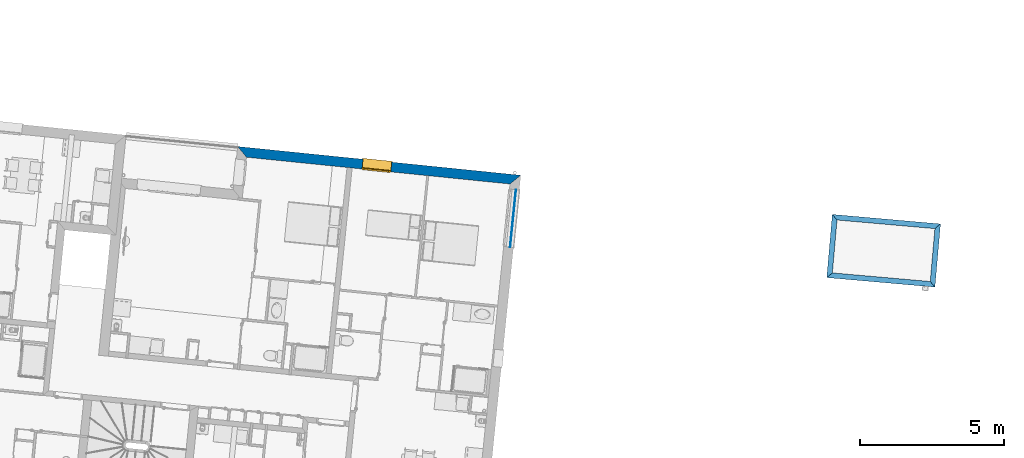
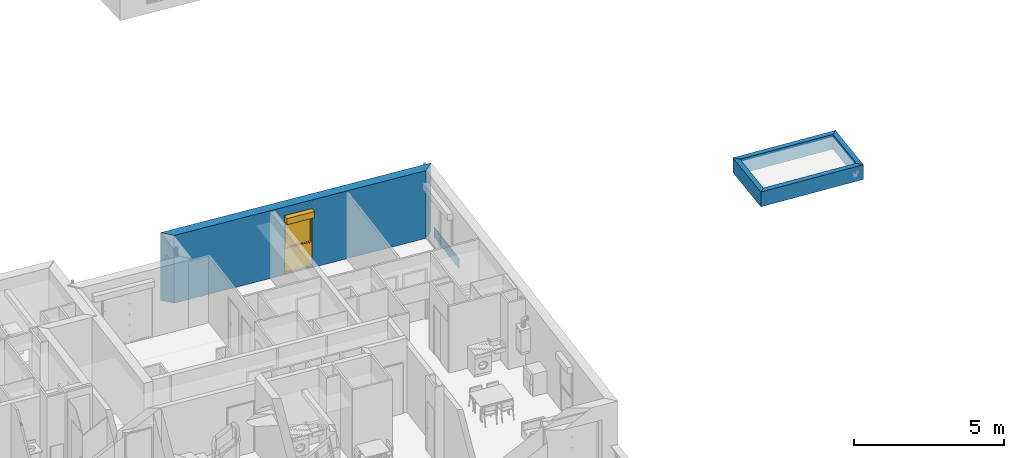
# One storey, part 70 of 164: 6 walls, 1 window, 1 opening.
"""IFC2X3 building model written with IfcOpenShell, lengths in millimetres."""

from ifc_helpers import new_model, entity, si_unit, converted_unit, derived_unit, money_unit, direction, frame, origin_with_axes, place, context, subcontext, project, spatial, polyline, outline, extrude, open_shell, faceted_brep, surface_model, source, transform, mapped, material, layer, layer_set, layer_usage, type_object, element, fill, save


model = new_model("IFC2X3")

# Units and contexts
model_context = context("Model", 3, precision=0.01, world=origin_with_axes(), true_north=direction((0.0, 1.0)))
body_context = subcontext(model_context, "Body", "Model", "MODEL_VIEW")
ifc_project = project(units=[si_unit("LENGTHUNIT", "METRE", prefix="MILLI"), si_unit("AREAUNIT", "SQUARE_METRE"), si_unit("VOLUMEUNIT", "CUBIC_METRE"), converted_unit("PLANEANGLEUNIT", "DEGREE", entity("IfcPlaneAngleMeasure", 0.0174532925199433), si_unit("PLANEANGLEUNIT", "RADIAN"), dimensions=[0, 0, 0, 0, 0, 0, 0]), money_unit("USD"), converted_unit("TIMEUNIT", "Year", entity("IfcTimeMeasure", 31557600.0), si_unit("TIMEUNIT", "SECOND"), dimensions=[0, 0, 1, 0, 0, 0, 0]), si_unit("MASSUNIT", "GRAM", prefix="KILO"), si_unit("THERMODYNAMICTEMPERATUREUNIT", "DEGREE_CELSIUS"), si_unit("LUMINOUSINTENSITYUNIT", "LUMEN"), si_unit("ENERGYUNIT", "JOULE", prefix="MEGA"), derived_unit("THERMALCONDUCTANCEUNIT", [(si_unit("POWERUNIT", "WATT"), 1), (si_unit("LENGTHUNIT", "METRE"), -1), (si_unit("THERMODYNAMICTEMPERATUREUNIT", "KELVIN"), -1)]), derived_unit("SPECIFICHEATCAPACITYUNIT", [(si_unit("ENERGYUNIT", "JOULE"), 1), (si_unit("MASSUNIT", "GRAM", prefix="KILO"), -1), (si_unit("THERMODYNAMICTEMPERATUREUNIT", "KELVIN"), -1)]), derived_unit("MASSDENSITYUNIT", [(si_unit("MASSUNIT", "GRAM", prefix="KILO"), 1), (si_unit("VOLUMEUNIT", "CUBIC_METRE"), -1)])], contexts=[model_context])

# Site, building, storey
site_placement = place(None, origin_with_axes())
site = spatial("IfcSite", under=ifc_project, at=site_placement, Name="Site", CompositionType="ELEMENT")
building_placement = place(site_placement, origin_with_axes())
building = spatial("IfcBuilding", under=site, at=building_placement, Name="Bâtiment", CompositionType="ELEMENT")
storey_placement = place(building_placement, frame((0.0, 0.0, 5750.0), z_axis=(0.0, 0.0, 1.0), x_axis=(1.0, 0.0, 0.0)))
storey = spatial("IfcBuildingStorey", under=building, at=storey_placement, Name="Etage1", CompositionType="ELEMENT", Elevation=5750.0)

# Walls
ifc_material_1 = material(Name="Parpaing 314940890")
ifc_layer_1 = layer(ifc_material_1, 180.0, ventilated="UNKNOWN")
ifc_layer_set_1 = layer_set([ifc_layer_1], Name="Beton  18 0018356637")
ifc_layer_usage_1 = layer_usage(ifc_layer_set_1, "AXIS2", "NEGATIVE", 0.0)
wall_type_1 = type_object("IfcWallType", Name="Beton  18 0018356637 180", PredefinedType="NOTDEFINED")
wall_1_placement = place(storey_placement, frame((2250975.347141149, -607592.5401625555, -600.0000000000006), z_axis=(0.0, 0.0, 1.0), x_axis=(0.9961532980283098, -0.08762766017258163, 0.0)))
element("IfcWallStandardCase", 1, at=wall_1_placement, inside=storey, type_object=wall_type_1, material=ifc_layer_usage_1, Name="Mur-150", context=body_context, shape_type="SweptSolid", body=[
    extrude(outline(polyline([(180.00000000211, -179.9999999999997), (3582.228864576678, -179.9999999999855), (3762.228864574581, 0.0), (1.13686837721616e-10, 0.0), (180.00000000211, -179.9999999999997)])), origin_with_axes(), (0.0, 0.0, 1.0), 600.0000000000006),
])
ifc_layer_usage_2 = layer_usage(ifc_layer_set_1, "AXIS2", "NEGATIVE", 0.0)
wall_2_placement = place(storey_placement, frame((2254723.103832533, -607922.215474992, -600.0000000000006), z_axis=(0.0, 0.0, 1.0), x_axis=(-0.0876276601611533, -0.9961532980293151, 0.0)))
element("IfcWallStandardCase", 2, at=wall_2_placement, inside=storey, type_object=wall_type_1, material=ifc_layer_usage_2, Name="Mur-150", context=body_context, shape_type="SweptSolid", body=[
    extrude(outline(polyline([(179.999999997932, -180.0000000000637), (2017.153720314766, -179.99999999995), (2197.153720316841, -1.13686837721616e-10), (0.0, 0.0), (179.999999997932, -180.0000000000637)])), origin_with_axes(), (0.0, 0.0, 1.0), 600.0000000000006),
])
ifc_layer_usage_3 = layer_usage(ifc_layer_set_1, "AXIS2", "NEGATIVE", 0.0)
wall_3_placement = place(storey_placement, frame((2250782.815701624, -609781.2420873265, -600.0000000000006), z_axis=(0.0, 0.0, 1.0), x_axis=(0.08762766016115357, 0.9961532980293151, 0.0)))
element("IfcWallStandardCase", 3, at=wall_3_placement, inside=storey, type_object=wall_type_1, material=ifc_layer_usage_3, Name="Mur-150", context=body_context, shape_type="SweptSolid", body=[
    extrude(outline(polyline([(179.9999999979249, -180.0000000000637), (2017.153720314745, -179.99999999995), (2197.15372031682, 0.0), (0.0, 0.0), (179.9999999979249, -180.0000000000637)])), origin_with_axes(), (0.0, 0.0, 1.0), 600.0000000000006),
])
ifc_layer_usage_4 = layer_usage(ifc_layer_set_1, "AXIS2", "NEGATIVE", 0.0)
wall_4_placement = place(storey_placement, frame((2254530.572393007, -610110.917399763, -600.0000000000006), z_axis=(0.0, 0.0, 1.0), x_axis=(-0.9961532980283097, 0.0876276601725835, 0.0)))
element("IfcWallStandardCase", 4, at=wall_4_placement, inside=storey, type_object=wall_type_1, material=ifc_layer_usage_4, Name="Mur-150", context=body_context, shape_type="SweptSolid", body=[
    extrude(outline(polyline([(180.00000000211, -179.9999999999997), (3582.228864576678, -179.9999999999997), (3762.228864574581, 0.0), (1.13686837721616e-10, 0.0), (180.00000000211, -179.9999999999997)])), origin_with_axes(), (0.0, 0.0, 1.0), 600.0000000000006),
])
ifc_material_2 = material(Name="MANQUANT")
ifc_layer_2 = layer(ifc_material_2, 20.0, ventilated="UNKNOWN")
ifc_layer_set_2 = layer_set([ifc_layer_2], Name="MANQUANT 20")
ifc_layer_usage_5 = layer_usage(ifc_layer_set_2, "AXIS2", "POSITIVE", -20.0)
wall_type_2 = type_object("IfcWallType", Name="MANQUANT 20", PredefinedType="NOTDEFINED")
wall_5_placement = place(storey_placement, frame((2239804.651416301, -608724.0890658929, 99.99999999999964), z_axis=(0.0, 0.0, 1.0), x_axis=(0.1011032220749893, 0.9948759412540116, 0.0)))
element("IfcWallStandardCase", 5, at=wall_5_placement, inside=storey, type_object=wall_type_2, material=ifc_layer_usage_5, Name="Mur-150", context=body_context, shape_type="SweptSolid", body=[
    extrude(outline(polyline([(0.0, -20.0000000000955), (1999.999999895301, -20.00000000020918), (1999.999999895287, -1.13686837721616e-10), (0.0, 0.0), (0.0, -20.0000000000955)])), origin_with_axes(), (0.0, 0.0, 1.0), 400.0),
])

# Wall, opening, window
ifc_material_3 = material(Name="Parpaing 312445824")
ifc_layer_3 = layer(ifc_material_3, 180.0, ventilated="UNKNOWN")
ifc_material_4 = material(Name="Isolant styromousse 301821074")
ifc_layer_4 = layer(ifc_material_4, 160.0, ventilated="UNKNOWN")
ifc_layer_set_3 = layer_set([ifc_layer_3, ifc_layer_4], Name="isol int 18+16 0018356637")
ifc_layer_usage_6 = layer_usage(ifc_layer_set_3, "AXIS2", "POSITIVE", 0.0)
wall_type_3 = type_object("IfcWallType", Name="isol int 18+16 0018356637 340", PredefinedType="NOTDEFINED")
wall_6_placement = place(storey_placement, frame((2240182.946874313, -606236.1516955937, 0.0), z_axis=(0.0, 0.0, 1.0), x_axis=(-0.99487594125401, 0.1011032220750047, 0.0)))
wall_6 = element("IfcWallStandardCase", 6, at=wall_6_placement, inside=storey, type_object=wall_type_3, material=ifc_layer_usage_6, Name="Mur-142", context=body_context, shape_type="SweptSolid", body=[
    extrude(outline(polyline([(-1.13686837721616e-10, 0.0), (9857.91006069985, 0.0), (9517.910060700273, 340.0000000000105), (339.9999999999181, 339.9999999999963), (-1.13686837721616e-10, 0.0)])), origin_with_axes(), (0.0, 0.0, 1.0), 2750.0),
])
opening_placement = place(wall_6_placement, frame((4992.65878816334, 0.0, 49.99999999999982), z_axis=(0.0, 0.0, 1.0), x_axis=(1.0, 0.0, 0.0)))
opening = element("IfcOpeningElement", 7, at=opening_placement, cuts=wall_6, Name="Fen-133", context=body_context, shape_type="Brep", body=[
    faceted_brep([(500.0, 279.999999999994, 2100.0), (-500.0000000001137, 280.0000000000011, 2100.0), (-500.0, -992.5594925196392, 2100.0), (500.0, -992.5594925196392, 2100.0), (500.0, 279.999999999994, 2350.0), (-500.0000000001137, 280.0000000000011, 2350.0), (-500.0000000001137, 289.9999999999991, 2100.0), (-500.0000000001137, 289.9999999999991, 0.0), (-500.0, -992.5594925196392, 0.0), (500.0, -992.5594925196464, 0.0), (499.9999999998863, 289.999999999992, 2100.0), (500.0, 289.9999999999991, 0.0), (500.0, 530.0000000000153, 2100.0), (500.0, 530.0000000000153, 2350.0), (-500.0, 530.0000000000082, 2350.0), (-500.0, 530.0000000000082, 2100.0), (-500.0, 1332.559492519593, 2100.0), (-500.0, 1332.559492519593, 0.0), (500.0000000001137, 1332.559492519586, 0.0), (500.0000000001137, 1332.559492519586, 2100.0)], [[[0, 1, 2, 3]], [[1, 0, 4, 5]], [[1, 6, 7, 8, 2]], [[2, 8, 9, 3]], [[10, 0, 3, 9, 11]], [[0, 10, 12, 13, 4]], [[4, 13, 14, 5]], [[6, 1, 5, 14, 15]], [[6, 15, 16, 17, 7]], [[11, 9, 8, 7, 17, 18]], [[12, 10, 11, 18, 19]], [[12, 15, 14, 13]], [[15, 12, 19, 16]], [[19, 18, 17, 16]]]),
])
window_style = type_object("IfcWindowStyle", Name="Fenêtre 27", ConstructionType="NOTDEFINED", OperationType="DOUBLE_PANEL_HORIZONTAL", ParameterTakesPrecedence=False, Sizeable=False)
shared_shape = source(origin_with_axes(), body_context, "Body", "SurfaceModel", [
    surface_model("IfcShellBasedSurfaceModel", [(500.0, -51.00000000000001, 40.00000000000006), (500.0, -51.00000000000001, 50.00000000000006), (-500.0, -51.00000000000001, 50.0), (-500.0, -51.00000000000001, 40.0), (530.0, -369.9999999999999, 28.96551724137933), (530.0, -339.9999999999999, 30.00324289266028), (500.0, -339.9999999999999, 30.00324289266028), (-500.0, -339.9999999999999, 30.00324289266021), (-530.0, -339.9999999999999, 30.00324289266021), (-530.0, -369.9999999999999, 28.96551724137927), (530.0, -369.9999999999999, 8.96551724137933), (-530.0, -369.9999999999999, 8.965517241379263), (530.0, -359.9999999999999, 18.96551724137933), (-530.0, -359.9999999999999, 18.96551724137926)], [open_shell([[[0, 1, 2, 3]], [[4, 5, 6, 0, 3, 7, 8, 9]], [[10, 4, 9, 11]], [[12, 10, 11, 13]]])]),
    faceted_brep([(-500.0, -59.99999999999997, 2350.0), (-497.0, -59.99999999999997, 2350.0), (-497.0, 190.0, 2350.0), (-500.0, 190.0, 2350.0), (-500.0, -59.99999999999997, 2100.0), (-497.0, -59.99999999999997, 2100.0), (-497.0, 190.0, 2100.0), (-500.0, 190.0, 2100.0)], [[[0, 1, 2, 3]], [[4, 5, 1, 0]], [[1, 5, 6, 2]], [[3, 2, 6, 7]], [[0, 3, 7, 4]], [[7, 6, 5, 4]]]),
    faceted_brep([(497.0, -59.99999999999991, 2350.0), (500.0, -59.99999999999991, 2350.0), (500.0, 190.0000000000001, 2350.0), (497.0, 190.0000000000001, 2350.0), (497.0, -59.99999999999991, 2100.0), (500.0, -59.99999999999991, 2100.0), (500.0, 190.0000000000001, 2100.0), (497.0, 190.0000000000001, 2100.0)], [[[0, 1, 2, 3]], [[4, 5, 1, 0]], [[1, 5, 6, 2]], [[3, 2, 6, 7]], [[0, 3, 7, 4]], [[7, 6, 5, 4]]]),
    faceted_brep([(-497.0, -60.0, 2100.0), (497.0, -59.99999999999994, 2100.0), (497.0, -59.99999999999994, 2350.0), (-497.0, -60.0, 2350.0), (-497.0, -56.99999999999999, 2100.0), (497.0, -56.99999999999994, 2100.0), (497.0, -56.99999999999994, 2347.0), (497.0, 187.0000000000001, 2347.0), (497.0, 187.0000000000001, 2103.0), (497.0, -37.99999999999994, 2103.0), (497.0, -37.99999999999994, 2100.0), (497.0, 190.0000000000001, 2100.0), (497.0, 190.0000000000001, 2350.0), (-497.0, 190.0, 2350.0), (-497.0, 190.0, 2100.0), (-497.0, -37.99999999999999, 2100.0), (-497.0, -37.99999999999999, 2103.0), (-497.0, 187.0, 2103.0), (-497.0, 187.0, 2347.0), (-497.0, -56.99999999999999, 2347.0)], [[[0, 1, 2, 3]], [[4, 5, 1, 0]], [[1, 5, 6, 7, 8, 9, 10, 11, 12, 2]], [[3, 2, 12, 13]], [[0, 3, 13, 14, 15, 16, 17, 18, 19, 4]], [[19, 6, 5, 4]], [[18, 7, 6, 19]], [[17, 8, 7, 18]], [[16, 9, 8, 17]], [[15, 10, 9, 16]], [[14, 11, 10, 15]], [[13, 12, 11, 14]]]),
    faceted_brep([(-494.0, -40.37442957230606, 2206.419644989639), (-494.0, -41.99999999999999, 2225.0), (-494.0, -40.37442957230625, 2243.580355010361), (-494.0, -35.54711042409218, 2261.596155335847), (-494.0, -27.66471820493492, 2278.5), (-494.0, -16.96675541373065, 2293.77827423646), (-494.0, -3.778274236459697, 2306.966755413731), (-494.0, 11.5, 2317.664718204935), (-494.0, 28.40384466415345, 2325.547110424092), (-494.0, 46.41964498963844, 2330.374429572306), (-494.0, 64.99999999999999, 2332.0), (-494.0, 83.58035501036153, 2330.374429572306), (-494.0, 101.5961553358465, 2325.547110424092), (-494.0, 118.5, 2317.664718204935), (-494.0, 133.7782742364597, 2306.966755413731), (-494.0, 146.9667554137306, 2293.77827423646), (-494.0, 157.6647182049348, 2278.5), (-494.0, 165.5471104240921, 2261.596155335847), (-494.0, 170.3744295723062, 2243.580355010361), (-494.0, 171.9999999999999, 2225.0), (-494.0, 170.3744295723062, 2206.419644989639), (-494.0, 165.5471104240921, 2188.403844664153), (-494.0, 157.6647182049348, 2171.5), (-494.0, 146.9667554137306, 2156.22172576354), (-494.0, 133.7782742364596, 2143.03324458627), (-494.0, 118.4999999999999, 2132.335281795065), (-494.0, 101.5961553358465, 2124.452889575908), (-494.0, 83.58035501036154, 2119.625570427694), (-494.0, 65.00000000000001, 2118.0), (-494.0, 46.4196449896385, 2119.625570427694), (-494.0, 28.40384466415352, 2124.452889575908), (-494.0, 11.50000000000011, 2132.335281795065), (-494.0, -3.778274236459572, 2143.03324458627), (-494.0, -16.9667554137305, 2156.22172576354), (-494.0, -27.66471820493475, 2171.5), (-494.0, -35.54711042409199, 2188.403844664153), (494.0, -40.374429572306, 2206.419644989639), (494.0, -41.99999999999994, 2225.0), (494.0, -40.37442957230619, 2243.580355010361), (494.0, -35.54711042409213, 2261.596155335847), (494.0, -27.66471820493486, 2278.5), (494.0, -16.96675541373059, 2293.77827423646), (494.0, -3.778274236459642, 2306.966755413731), (494.0, 11.50000000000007, 2317.664718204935), (494.0, 28.40384466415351, 2325.547110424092), (494.0, 46.41964498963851, 2330.374429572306), (494.0, 65.00000000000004, 2332.0), (494.0, 83.58035501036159, 2330.374429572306), (494.0, 101.5961553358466, 2325.547110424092), (494.0, 118.5, 2317.664718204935), (494.0, 133.7782742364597, 2306.966755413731), (494.0, 146.9667554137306, 2293.77827423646), (494.0, 157.6647182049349, 2278.5), (494.0, 165.5471104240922, 2261.596155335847), (494.0, 170.3744295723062, 2243.580355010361), (494.0, 172.0, 2225.0), (494.0, 170.3744295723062, 2206.419644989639), (494.0, 165.5471104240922, 2188.403844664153), (494.0, 157.6647182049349, 2171.5), (494.0, 146.9667554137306, 2156.22172576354), (494.0, 133.7782742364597, 2143.03324458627), (494.0, 118.5, 2132.335281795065), (494.0, 101.5961553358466, 2124.452889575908), (494.0, 83.5803550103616, 2119.625570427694), (494.0, 65.00000000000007, 2118.0), (494.0, 46.41964498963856, 2119.625570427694), (494.0, 28.40384466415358, 2124.452889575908), (494.0, 11.50000000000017, 2132.335281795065), (494.0, -3.778274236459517, 2143.03324458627), (494.0, -16.96675541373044, 2156.22172576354), (494.0, -27.6647182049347, 2171.5), (494.0, -35.54711042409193, 2188.403844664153)], [[[0, 1, 2, 3, 4, 5, 6, 7, 8, 9, 10, 11, 12, 13, 14, 15, 16, 17, 18, 19, 20, 21, 22, 23, 24, 25, 26, 27, 28, 29, 30, 31, 32, 33, 34, 35]], [[0, 36, 37, 1]], [[1, 37, 38, 2]], [[2, 38, 39, 3]], [[3, 39, 40, 4]], [[4, 40, 41, 5]], [[5, 41, 42, 6]], [[6, 42, 43, 7]], [[7, 43, 44, 8]], [[8, 44, 45, 9]], [[9, 45, 46, 10]], [[10, 46, 47, 11]], [[11, 47, 48, 12]], [[12, 48, 49, 13]], [[13, 49, 50, 14]], [[14, 50, 51, 15]], [[15, 51, 52, 16]], [[16, 52, 53, 17]], [[17, 53, 54, 18]], [[18, 54, 55, 19]], [[19, 55, 56, 20]], [[20, 56, 57, 21]], [[21, 57, 58, 22]], [[22, 58, 59, 23]], [[23, 59, 60, 24]], [[24, 60, 61, 25]], [[25, 61, 62, 26]], [[26, 62, 63, 27]], [[27, 63, 64, 28]], [[28, 64, 65, 29]], [[29, 65, 66, 30]], [[30, 66, 67, 31]], [[31, 67, 68, 32]], [[32, 68, 69, 33]], [[33, 69, 70, 34]], [[34, 70, 71, 35]], [[35, 71, 36, 0]], [[36, 71, 70, 69, 68, 67, 66, 65, 64, 63, 62, 61, 60, 59, 58, 57, 56, 55, 54, 53, 52, 51, 50, 49, 48, 47, 46, 45, 44, 43, 42, 41, 40, 39, 38, 37]]]),
    faceted_brep([(500.0, -34.99999999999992, 30.0), (500.0, -34.99999999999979, 2100.0), (500.0, -59.99999999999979, 2100.0), (500.0, -59.99999999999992, 30.0), (475.0, -34.99999999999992, 30.0), (475.0, -34.99999999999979, 2100.0), (475.0, -37.99999999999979, 2100.0), (497.0, -37.99999999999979, 2100.0), (497.0, -56.99999999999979, 2100.0), (475.0, -56.99999999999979, 2100.0), (475.0, -59.99999999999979, 2100.0), (475.0, -59.99999999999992, 30.0), (475.0, -56.99999999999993, 30.0), (497.0, -56.99999999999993, 30.0), (497.0, -37.99999999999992, 30.0), (475.0, -37.99999999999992, 30.0)], [[[0, 1, 2, 3]], [[4, 5, 1, 0]], [[1, 5, 6, 7, 8, 9, 10, 2]], [[3, 2, 10, 11]], [[0, 3, 11, 12, 13, 14, 15, 4]], [[15, 6, 5, 4]], [[14, 7, 6, 15]], [[13, 8, 7, 14]], [[12, 9, 8, 13]], [[11, 10, 9, 12]]]),
    faceted_brep([(-500.0, -34.99999999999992, 30.0), (-500.0, -59.99999999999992, 30.0), (-500.0, -59.99999999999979, 2100.0), (-500.0, -34.99999999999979, 2100.0), (-475.0, -34.99999999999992, 30.0), (-475.0, -37.99999999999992, 30.0), (-497.0, -37.99999999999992, 30.0), (-497.0, -56.99999999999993, 30.0), (-475.0, -56.99999999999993, 30.0), (-475.0, -59.99999999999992, 30.0), (-475.0, -59.99999999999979, 2100.0), (-475.0, -56.99999999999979, 2100.0), (-497.0, -56.99999999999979, 2100.0), (-497.0, -37.99999999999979, 2100.0), (-475.0, -37.99999999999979, 2100.0), (-475.0, -34.99999999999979, 2100.0)], [[[0, 1, 2, 3]], [[0, 4, 5, 6, 7, 8, 9, 1]], [[1, 9, 10, 2]], [[3, 2, 10, 11, 12, 13, 14, 15]], [[4, 0, 3, 15]], [[5, 4, 15, 14]], [[6, 5, 14, 13]], [[7, 6, 13, 12]], [[8, 7, 12, 11]], [[9, 8, 11, 10]]]),
    faceted_brep([(497.0, -46.66666666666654, 2225.0), (497.0, -46.66666666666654, 2216.666666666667), (-497.0, -46.6666666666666, 2216.666666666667), (-497.0, -46.6666666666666, 2225.0), (497.0, -51.66666666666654, 2225.0), (497.0, -51.66666666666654, 2216.666666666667), (497.0, -49.99999999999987, 2200.0), (497.0, -44.99999999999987, 2200.0), (-497.0, -44.99999999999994, 2200.0), (-497.0, -49.99999999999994, 2200.0), (-497.0, -51.6666666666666, 2216.666666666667), (-497.0, -51.6666666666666, 2225.0)], [[[0, 1, 2, 3]], [[4, 5, 6, 7, 1, 0]], [[2, 1, 7, 8]], [[3, 2, 8, 9, 10, 11]], [[3, 11, 4, 0]], [[10, 5, 4, 11]], [[9, 6, 5, 10]], [[8, 7, 6, 9]]]),
    faceted_brep([(-497.0, -44.99999999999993, 2200.0), (497.0, -44.99999999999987, 2200.0), (497.0, -46.66666666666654, 2183.333333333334), (-497.0, -46.6666666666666, 2183.333333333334), (-497.0, -49.99999999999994, 2200.0), (497.0, -49.99999999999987, 2200.0), (497.0, -51.66666666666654, 2183.333333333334), (497.0, -51.66666666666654, 2166.666666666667), (497.0, -49.99999999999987, 2150.000000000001), (497.0, -44.99999999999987, 2150.000000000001), (497.0, -46.66666666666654, 2166.666666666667), (-497.0, -46.6666666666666, 2166.666666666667), (-497.0, -44.99999999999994, 2150.000000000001), (-497.0, -49.99999999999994, 2150.000000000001), (-497.0, -51.6666666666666, 2166.666666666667), (-497.0, -51.6666666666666, 2183.333333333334)], [[[0, 1, 2, 3]], [[4, 5, 1, 0]], [[1, 5, 6, 7, 8, 9, 10, 2]], [[3, 2, 10, 11]], [[0, 3, 11, 12, 13, 14, 15, 4]], [[15, 6, 5, 4]], [[14, 7, 6, 15]], [[13, 8, 7, 14]], [[12, 9, 8, 13]], [[11, 10, 9, 12]]]),
    faceted_brep([(-497.0, -44.99999999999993, 2150.000000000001), (497.0, -44.99999999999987, 2150.000000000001), (497.0, -46.66666666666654, 2133.333333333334), (-497.0, -46.6666666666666, 2133.333333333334), (-497.0, -49.99999999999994, 2150.000000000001), (497.0, -49.99999999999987, 2150.000000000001), (497.0, -51.66666666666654, 2133.333333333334), (497.0, -51.66666666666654, 2116.666666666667), (497.0, -49.99999999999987, 2100.000000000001), (497.0, -44.99999999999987, 2100.000000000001), (497.0, -46.66666666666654, 2116.666666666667), (-497.0, -46.6666666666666, 2116.666666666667), (-497.0, -44.99999999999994, 2100.000000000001), (-497.0, -49.99999999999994, 2100.000000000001), (-497.0, -51.6666666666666, 2116.666666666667), (-497.0, -51.6666666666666, 2133.333333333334)], [[[0, 1, 2, 3]], [[4, 5, 1, 0]], [[1, 5, 6, 7, 8, 9, 10, 2]], [[3, 2, 10, 11]], [[0, 3, 11, 12, 13, 14, 15, 4]], [[15, 6, 5, 4]], [[14, 7, 6, 15]], [[13, 8, 7, 14]], [[12, 9, 8, 13]], [[11, 10, 9, 12]]]),
    faceted_brep([(-475.0000000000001, 0.0, 2050.0), (-500.0, 0.0, 2050.0), (-500.0, -50.00000000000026, 2050.0), (-450.0, -50.00000000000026, 2050.0), (-450.0, -25.00000000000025, 2050.0), (-475.0000000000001, -25.00000000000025, 2050.0), (-475.0000000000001, 0.0, 1025.0), (-450.0, 0.0, 1025.0), (-450.0, 0.0, 950.0), (-450.0, 0.0, 50.00000000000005), (-500.0, 0.0, 50.00000000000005), (-500.0, -50.00000000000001, 50.00000000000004), (-450.0, -50.00000000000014, 1050.0), (-450.0, -50.00000000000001, 50.00000000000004), (-450.0, -50.00000000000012, 950.0), (-450.0, -25.00000000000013, 1050.0), (-450.0, -25.00000000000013, 1025.0), (-475.0000000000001, -25.00000000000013, 1025.0)], [[[0, 1, 2, 3, 4, 5]], [[6, 7, 8, 9, 10, 1, 0]], [[1, 10, 11, 2]], [[12, 3, 2, 11, 13, 14]], [[4, 3, 12, 15]], [[15, 16, 17, 5, 4]], [[5, 17, 6, 0]], [[6, 17, 16, 7]], [[16, 15, 12, 14, 8, 7]], [[9, 8, 14, 13]], [[10, 9, 13, 11]]]),
    faceted_brep([(450.0, -25.00000000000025, 2050.0), (450.0, -50.00000000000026, 2050.0), (500.0, -50.00000000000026, 2050.0), (500.0, 0.0, 2050.0), (475.0000000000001, 0.0, 2050.0), (475.0000000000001, -25.00000000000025, 2050.0), (450.0, -25.00000000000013, 1050.0), (450.0, -50.00000000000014, 1050.0), (500.0, -50.00000000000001, 50.00000000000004), (450.0, -50.00000000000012, 950.0), (450.0, -50.00000000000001, 50.00000000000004), (500.0, 0.0, 50.00000000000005), (475.0000000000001, 0.0, 1025.0), (450.0, 0.0, 50.00000000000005), (450.0, 0.0, 950.0), (450.0, 0.0, 1025.0), (475.0000000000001, -25.00000000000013, 1025.0), (450.0, -25.00000000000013, 1025.0)], [[[0, 1, 2, 3, 4, 5]], [[6, 7, 1, 0]], [[8, 2, 1, 7, 9, 10]], [[11, 3, 2, 8]], [[12, 4, 3, 11, 13, 14, 15]], [[12, 16, 5, 4]], [[5, 16, 17, 6, 0]], [[17, 15, 14, 9, 7, 6]], [[14, 13, 10, 9]], [[13, 11, 8, 10]], [[15, 17, 16, 12]]]),
    faceted_brep([(-450.0, -25.00000000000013, 1050.0), (-450.0, -50.00000000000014, 1050.0), (450.0, -50.00000000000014, 1050.0), (450.0, -25.00000000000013, 1050.0), (-450.0, -25.00000000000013, 1025.0), (-450.0, 0.0, 1025.0), (-450.0, 0.0, 950.0), (-450.0, -50.00000000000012, 950.0), (450.0, -50.00000000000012, 950.0), (450.0, -25.00000000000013, 1025.0), (450.0, 0.0, 950.0), (450.0, 0.0, 1025.0)], [[[0, 1, 2, 3]], [[4, 5, 6, 7, 1, 0]], [[8, 2, 1, 7]], [[9, 3, 2, 8, 10, 11]], [[9, 4, 0, 3]], [[5, 4, 9, 11]], [[11, 10, 6, 5]], [[6, 10, 8, 7]]]),
    faceted_brep([(-475.0000000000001, 0.0, 2050.0), (-500.0, 0.0, 2050.0), (-500.0, 0.0, 2100.0), (500.0, 0.0, 2100.0), (500.0, 0.0, 2050.0), (475.0000000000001, 0.0, 2050.0), (475.0000000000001, 0.0, 2075.0), (-475.0000000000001, 0.0, 2075.0), (-475.0000000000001, -25.00000000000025, 2050.0), (-450.0, -25.00000000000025, 2050.0), (-450.0, -50.00000000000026, 2050.0), (-500.0, -50.00000000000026, 2050.0), (-500.0, -50.00000000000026, 2100.0), (500.0, -50.00000000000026, 2100.0), (500.0, -50.00000000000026, 2050.0), (475.0000000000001, -25.00000000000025, 2050.0), (450.0, -50.00000000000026, 2050.0), (450.0, -25.00000000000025, 2050.0), (475.0000000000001, -25.00000000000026, 2075.0), (-475.0000000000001, -25.00000000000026, 2075.0)], [[[0, 1, 2, 3, 4, 5, 6, 7]], [[8, 9, 10, 11, 1, 0]], [[2, 1, 11, 12]], [[3, 2, 12, 13]], [[4, 3, 13, 14]], [[15, 5, 4, 14, 16, 17]], [[5, 15, 18, 6]], [[6, 18, 19, 7]], [[7, 19, 8, 0]], [[17, 9, 8, 19, 18, 15]], [[17, 16, 10, 9]], [[14, 13, 12, 11, 10, 16]]]),
    faceted_brep([(-450.0, -50.00000000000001, 50.0), (-450.0, 0.0, 50.00000000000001), (-500.0, 0.0, 50.00000000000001), (-500.0, -50.00000000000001, 50.0), (450.0, -50.00000000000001, 50.0), (450.0, 0.0, 50.00000000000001), (500.0, 0.0, 50.00000000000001), (500.0, 0.0, 0.0), (-500.0, 0.0, 0.0), (-500.0, -50.0, 0.0), (500.0, -50.0, 0.0), (500.0, -50.00000000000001, 50.0)], [[[0, 1, 2, 3]], [[4, 5, 1, 0]], [[1, 5, 6, 7, 8, 2]], [[3, 2, 8, 9]], [[0, 3, 9, 10, 11, 4]], [[11, 6, 5, 4]], [[10, 7, 6, 11]], [[9, 8, 7, 10]]]),
    faceted_brep([(-425.0000000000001, -25.00000000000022, 2025.0), (-425.0000000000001, 24.99999999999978, 2025.0), (-475.0000000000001, 24.99999999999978, 2025.0), (-475.0000000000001, -25.00000000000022, 2025.0), (-425.0000000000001, -25.00000000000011, 1075.0), (-425.0000000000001, 24.9999999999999, 1075.0), (-475.0000000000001, 24.9999999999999, 1075.0), (-475.0000000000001, -25.0000000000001, 1075.0)], [[[0, 1, 2, 3]], [[4, 5, 1, 0]], [[1, 5, 6, 2]], [[3, 2, 6, 7]], [[0, 3, 7, 4]], [[7, 6, 5, 4]]]),
    faceted_brep([(425.0000000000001, -25.00000000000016, 1075.0), (425.0000000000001, 24.99999999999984, 1075.0), (475.0000000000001, 24.99999999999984, 1075.0), (475.0000000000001, -25.00000000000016, 1075.0), (425.0000000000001, -25.00000000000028, 2025.0), (425.0000000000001, 24.99999999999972, 2025.0), (475.0000000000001, 24.99999999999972, 2025.0), (475.0000000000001, -25.00000000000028, 2025.0)], [[[0, 1, 2, 3]], [[4, 5, 1, 0]], [[1, 5, 6, 2]], [[3, 2, 6, 7]], [[0, 3, 7, 4]], [[7, 6, 5, 4]]]),
    faceted_brep([(475.0000000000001, -25.00000000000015, 1025.0), (475.0000000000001, 24.99999999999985, 1025.0), (475.0000000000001, 24.99999999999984, 1075.0), (475.0000000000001, -25.00000000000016, 1075.0), (-475.0000000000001, -25.0000000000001, 1025.0), (-475.0000000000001, 24.9999999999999, 1025.0), (-475.0000000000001, 24.9999999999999, 1075.0), (-425.0000000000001, 24.9999999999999, 1075.0), (425.0000000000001, 24.99999999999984, 1075.0), (425.0000000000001, -25.00000000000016, 1075.0), (-425.0000000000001, -25.00000000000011, 1075.0), (-475.0000000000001, -25.0000000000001, 1075.0)], [[[0, 1, 2, 3]], [[4, 5, 1, 0]], [[1, 5, 6, 7, 8, 2]], [[3, 2, 8, 9]], [[0, 3, 9, 10, 11, 4]], [[11, 6, 5, 4]], [[10, 7, 6, 11]], [[9, 8, 7, 10]]]),
    faceted_brep([(-475.0000000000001, -25.00000000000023, 2075.0), (-475.0000000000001, 24.99999999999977, 2075.0), (-475.0000000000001, 24.99999999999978, 2025.0), (-475.0000000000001, -25.00000000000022, 2025.0), (475.0000000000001, -25.00000000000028, 2075.0), (475.0000000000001, 24.99999999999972, 2075.0), (475.0000000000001, 24.99999999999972, 2025.0), (425.0000000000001, 24.99999999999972, 2025.0), (-425.0000000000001, 24.99999999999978, 2025.0), (-425.0000000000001, -25.00000000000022, 2025.0), (425.0000000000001, -25.00000000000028, 2025.0), (475.0000000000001, -25.00000000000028, 2025.0)], [[[0, 1, 2, 3]], [[4, 5, 1, 0]], [[1, 5, 6, 7, 8, 2]], [[3, 2, 8, 9]], [[0, 3, 9, 10, 11, 4]], [[11, 6, 5, 4]], [[10, 7, 6, 11]], [[9, 8, 7, 10]]]),
    surface_model("IfcShellBasedSurfaceModel", [(-425.0000000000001, -10.00000000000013, 1075.0), (425.0000000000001, -10.00000000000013, 1075.0), (425.0000000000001, -10.00000000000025, 2025.0), (-425.0000000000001, -10.00000000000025, 2025.0)], [open_shell([[[0, 1, 2, 3]]])]),
    surface_model("IfcShellBasedSurfaceModel", [(-425.0000000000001, 9.999999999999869, 1075.0), (-425.0000000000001, 9.999999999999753, 2025.0), (425.0000000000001, 9.999999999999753, 2025.0), (425.0000000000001, 9.999999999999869, 1075.0)], [open_shell([[[0, 1, 2, 3]]])]),
    surface_model("IfcShellBasedSurfaceModel", [(-450.0, -35.0, 49.99999999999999), (450.0, -35.0, 49.99999999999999), (450.0, -35.00000000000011, 950.0), (-450.0, -35.00000000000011, 950.0)], [open_shell([[[0, 1, 2, 3]]])]),
    surface_model("IfcShellBasedSurfaceModel", [(-450.0, -15.0, 49.99999999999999), (-450.0, -15.00000000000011, 950.0), (450.0, -15.00000000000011, 950.0), (450.0, -15.0, 49.99999999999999)], [open_shell([[[0, 1, 2, 3]]])]),
])
window_placement = place(opening_placement, frame((-500.0000000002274, 0.0, 0.0), z_axis=(0.0, 0.0, 1.0), x_axis=(1.0, 0.0, 0.0)))
window = element("IfcWindow", 8, at=window_placement, inside=storey, type_object=window_style, Name="Fen-133", OverallHeight=2100.0, OverallWidth=1000.0, context=body_context, shape_type="MappedRepresentation", body=[
    mapped(shared_shape, transform((500.0, 340.0000000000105, 0.0))),
])
fill(opening, window)

save(model, "model.ifc")
